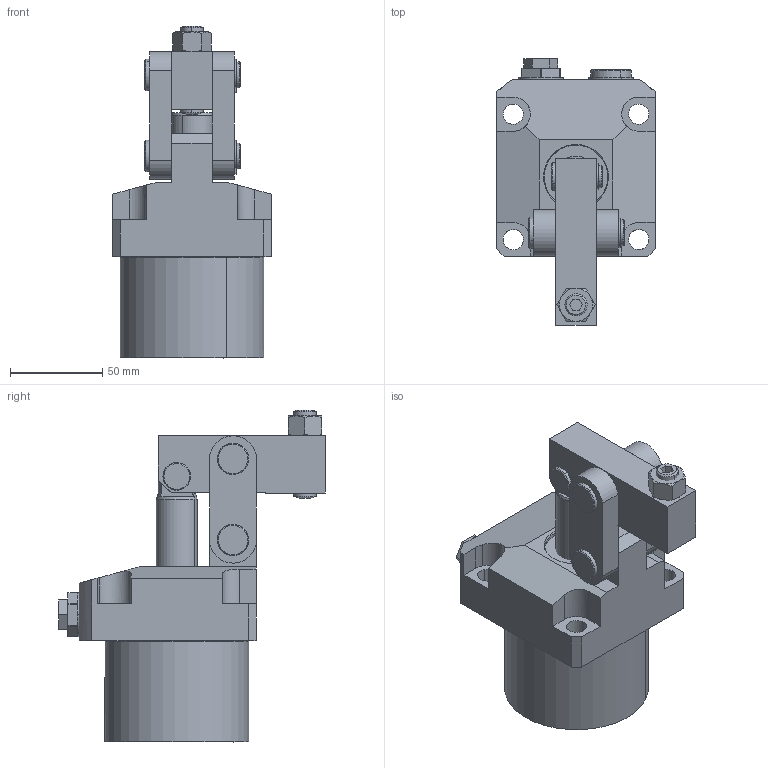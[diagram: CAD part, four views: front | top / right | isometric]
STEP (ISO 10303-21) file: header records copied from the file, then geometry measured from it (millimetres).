
FILE_DESCRIPTION(('CATIA V5 STEP Exchange'),'2;1');
FILE_NAME('\\Kjf-102\kjf_tc\Hydraulic_Clamp\Standard\HINGE_CLAMP\New_Hinge-Clamp\HGC-5636G\배포도면\CHGC-5678GV-L.stp','2017-09-15T04:27:03+00:00',('none'),('none'),'CATIA Version 5 Release 19 SP 6 (IN-10)','CATIA V5 STEP AP214','none');
FILE_SCHEMA(('AUTOMOTIVE_DESIGN { 1 0 10303 214 1 1 1 1 }'));
Length unit declared in the file: millimetre
Products named in the file (1): CHGC-5678GV-L
Bounding box: 86 x 144.5 x 180 mm (x, y, z)
Volume: 673416.2 mm3; surface area: 95088 mm2
Topology: 15 solids, 15 shells, 379 faces, 928 edges, 600 vertices
Faces by surface type: plane 160, cylinder 148, cone 61, torus 6, sphere 4
Entity records: 11751 total; most frequent: CARTESIAN_POINT 2992, ORIENTED_EDGE 1848, DIRECTION 1512, EDGE_CURVE 924, AXIS2_PLACEMENT_3D 682, VERTEX_POINT 600, VECTOR 484, LINE 484
